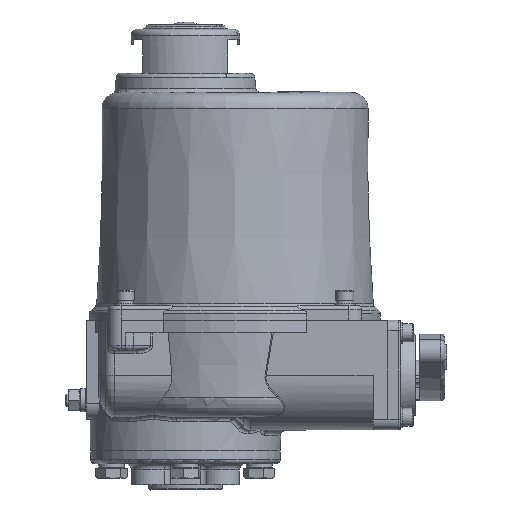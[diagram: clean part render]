
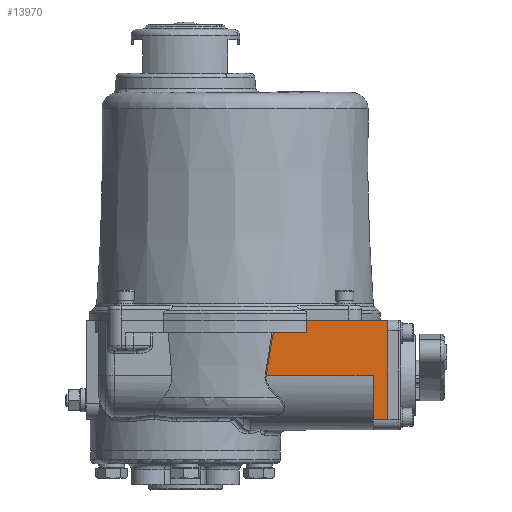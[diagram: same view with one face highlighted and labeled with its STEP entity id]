
A CAD part, left-side view. The second image highlights one B-rep face of the part: STEP entity #13970.
In plain terms, the highlighted planar face has unit normal (-1, 0, 0).
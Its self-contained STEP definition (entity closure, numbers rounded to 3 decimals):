
#13970=ADVANCED_FACE('',(#55809),#55811,.T.);
#55809=FACE_BOUND('',#55810,.T.);
#55810=EDGE_LOOP('',(#71346,#71347,#71348,#71349,#71350,#71351,#71352,#71353,#71354,
#71355));
#55811=PLANE('',#55812);
#55812=AXIS2_PLACEMENT_3D('',#55813,#55814,#55815);
#55813=CARTESIAN_POINT('',(-299.946,-84.392,62.));
#55814=DIRECTION('',(-1.,0.,0.));
#55815=DIRECTION('',(0.,0.,1.));
#71346=ORIENTED_EDGE('',*,*,#80792,.F.);
#71347=ORIENTED_EDGE('',*,*,#80793,.F.);
#71348=ORIENTED_EDGE('',*,*,#80794,.T.);
#71349=ORIENTED_EDGE('',*,*,#80718,.F.);
#71350=ORIENTED_EDGE('',*,*,#80795,.T.);
#71351=ORIENTED_EDGE('',*,*,#78777,.T.);
#71352=ORIENTED_EDGE('',*,*,#80796,.T.);
#71353=ORIENTED_EDGE('',*,*,#80797,.T.);
#71354=ORIENTED_EDGE('',*,*,#80798,.T.);
#71355=ORIENTED_EDGE('',*,*,#80799,.T.);
#78777=EDGE_CURVE('',#87031,#87039,#87041,.T.);
#80718=EDGE_CURVE('',#90176,#90178,#90179,.T.);
#80792=EDGE_CURVE('',#90302,#90303,#90304,.T.);
#80793=EDGE_CURVE('',#90305,#90302,#90306,.T.);
#80794=EDGE_CURVE('',#90305,#90178,#90307,.T.);
#80795=EDGE_CURVE('',#90176,#87031,#90308,.T.);
#80796=EDGE_CURVE('',#87039,#87205,#90309,.T.);
#80797=EDGE_CURVE('',#87205,#90310,#90311,.T.);
#80798=EDGE_CURVE('',#90310,#90312,#90313,.T.);
#80799=EDGE_CURVE('',#90312,#90303,#90314,.T.);
#87031=VERTEX_POINT('',#134506);
#87039=VERTEX_POINT('',#134524);
#87041=LINE('',#134528,#134529);
#87205=VERTEX_POINT('',#136705);
#90176=VERTEX_POINT('',#172780);
#90178=VERTEX_POINT('',#172785);
#90179=LINE('',#172786,#172787);
#90302=VERTEX_POINT('',#173936);
#90303=VERTEX_POINT('',#173937);
#90304=LINE('',#173938,#173939);
#90305=VERTEX_POINT('',#173941);
#90306=LINE('',#173942,#173943);
#90307=B_SPLINE_CURVE_WITH_KNOTS('',3,
(#173945,#173946,#173947,#173948,#173949,#173950,#173951,#173952,#173953,#173954,
#173955,#173956,#173957,#173958,#173959,#173960,#173961,#173962,#173963,#173964,
#173965,#173966,#173967,#173968,#173969,#173970,#173971,#173972,#173973,#173974,
#173975,#173976,#173977,#173978,#173979,#173980,#173981,#173982,#173983,#173984,
#173985,#173986,#173987,#173988,#173989,#173990,#173991,#173992,#173993,#173994,
#173995,#173996,#173997,#173998,#173999,#174000),
.UNSPECIFIED.,.F.,.F.,
(4,2,2,2,2,2,2,2,2,2,2,2,2,2,2,2,2,2,2,2,2,2,2,2,2,2,2,4),
(0.,0.064,0.12,0.167,0.208,0.242,
0.252,0.262,0.274,0.299,0.348,
0.446,0.501,0.511,0.525,0.552,
0.607,0.717,0.734,0.75,0.76,
0.77,0.789,0.828,0.872,0.921,
0.976,1.),
.UNSPECIFIED.);
#90308=LINE('',#174001,#174002);
#90309=LINE('',#174004,#174005);
#90310=VERTEX_POINT('',#174007);
#90311=LINE('',#174008,#174009);
#90312=VERTEX_POINT('',#174011);
#90313=LINE('',#174012,#174013);
#90314=LINE('',#174015,#174016);
#134506=CARTESIAN_POINT('',(-299.946,-77.392,15.));
#134524=CARTESIAN_POINT('',(-299.946,-84.392,15.));
#134528=CARTESIAN_POINT('',(-299.946,-77.392,15.));
#134529=VECTOR('',#134530,1.);
#134530=DIRECTION('',(0.,-1.,0.));
#136705=CARTESIAN_POINT('',(-299.946,-84.392,57.));
#172780=CARTESIAN_POINT('',(-299.946,-77.392,36.));
#172785=CARTESIAN_POINT('',(-299.946,-26.68,36.));
#172786=CARTESIAN_POINT('',(-299.946,-77.392,36.));
#172787=VECTOR('',#172788,1.);
#172788=DIRECTION('',(0.,1.,0.));
#173936=CARTESIAN_POINT('',(-299.946,-45.966,56.));
#173937=CARTESIAN_POINT('',(-299.946,-45.966,62.));
#173938=CARTESIAN_POINT('',(-299.946,-45.966,56.));
#173939=VECTOR('',#173940,1.);
#173940=DIRECTION('',(0.,0.,1.));
#173941=CARTESIAN_POINT('',(-299.946,-30.079,56.));
#173942=CARTESIAN_POINT('',(-299.946,-30.079,56.));
#173943=VECTOR('',#173944,1.);
#173944=DIRECTION('',(0.,-1.,0.));
#173945=CARTESIAN_POINT('',(-299.946,-30.079,56.));
#173946=CARTESIAN_POINT('',(-299.946,-29.992,55.447));
#173947=CARTESIAN_POINT('',(-299.946,-29.904,54.895));
#173948=CARTESIAN_POINT('',(-299.946,-29.757,53.962));
#173949=CARTESIAN_POINT('',(-299.946,-29.692,53.555));
#173950=CARTESIAN_POINT('',(-299.946,-29.582,52.857));
#173951=CARTESIAN_POINT('',(-299.946,-29.534,52.557));
#173952=CARTESIAN_POINT('',(-299.946,-29.452,52.038));
#173953=CARTESIAN_POINT('',(-299.946,-29.416,51.812));
#173954=CARTESIAN_POINT('',(-299.946,-29.353,51.422));
#173955=CARTESIAN_POINT('',(-299.946,-29.329,51.271));
#173956=CARTESIAN_POINT('',(-299.946,-29.293,51.045));
#173957=CARTESIAN_POINT('',(-299.946,-29.286,51.004));
#173958=CARTESIAN_POINT('',(-299.946,-29.266,50.878));
#173959=CARTESIAN_POINT('',(-299.946,-29.252,50.793));
#173960=CARTESIAN_POINT('',(-299.946,-29.226,50.63));
#173961=CARTESIAN_POINT('',(-299.946,-29.212,50.54));
#173962=CARTESIAN_POINT('',(-299.946,-29.169,50.274));
#173963=CARTESIAN_POINT('',(-299.946,-29.14,50.097));
#173964=CARTESIAN_POINT('',(-299.946,-29.055,49.574));
#173965=CARTESIAN_POINT('',(-299.946,-29.,49.233));
#173966=CARTESIAN_POINT('',(-299.946,-28.835,48.23));
#173967=CARTESIAN_POINT('',(-299.946,-28.729,47.589));
#173968=CARTESIAN_POINT('',(-299.946,-28.569,46.63));
#173969=CARTESIAN_POINT('',(-299.946,-28.512,46.296));
#173970=CARTESIAN_POINT('',(-299.946,-28.445,45.904));
#173971=CARTESIAN_POINT('',(-299.946,-28.435,45.845));
#173972=CARTESIAN_POINT('',(-299.946,-28.411,45.703));
#173973=CARTESIAN_POINT('',(-299.946,-28.397,45.62));
#173974=CARTESIAN_POINT('',(-299.946,-28.354,45.369));
#173975=CARTESIAN_POINT('',(-299.946,-28.325,45.2));
#173976=CARTESIAN_POINT('',(-299.946,-28.236,44.686));
#173977=CARTESIAN_POINT('',(-299.946,-28.175,44.334));
#173978=CARTESIAN_POINT('',(-299.946,-27.987,43.252));
#173979=CARTESIAN_POINT('',(-299.946,-27.853,42.495));
#173980=CARTESIAN_POINT('',(-299.946,-27.691,41.587));
#173981=CARTESIAN_POINT('',(-299.946,-27.671,41.471));
#173982=CARTESIAN_POINT('',(-299.946,-27.629,41.237));
#173983=CARTESIAN_POINT('',(-299.946,-27.603,41.092));
#173984=CARTESIAN_POINT('',(-299.946,-27.576,40.944));
#173985=CARTESIAN_POINT('',(-299.946,-27.57,40.908));
#173986=CARTESIAN_POINT('',(-299.946,-27.553,40.815));
#173987=CARTESIAN_POINT('',(-299.946,-27.545,40.768));
#173988=CARTESIAN_POINT('',(-299.946,-27.519,40.627));
#173989=CARTESIAN_POINT('',(-299.946,-27.502,40.53));
#173990=CARTESIAN_POINT('',(-299.946,-27.448,40.231));
#173991=CARTESIAN_POINT('',(-299.946,-27.41,40.019));
#173992=CARTESIAN_POINT('',(-299.946,-27.323,39.539));
#173993=CARTESIAN_POINT('',(-299.946,-27.274,39.268));
#173994=CARTESIAN_POINT('',(-299.946,-27.163,38.656));
#173995=CARTESIAN_POINT('',(-299.946,-27.1,38.311));
#173996=CARTESIAN_POINT('',(-299.946,-26.958,37.531));
#173997=CARTESIAN_POINT('',(-299.946,-26.878,37.09));
#173998=CARTESIAN_POINT('',(-299.946,-26.756,36.42));
#173999=CARTESIAN_POINT('',(-299.946,-26.718,36.21));
#174000=CARTESIAN_POINT('',(-299.946,-26.68,36.));
#174001=CARTESIAN_POINT('',(-299.946,-77.392,36.));
#174002=VECTOR('',#174003,1.);
#174003=DIRECTION('',(0.,0.,-1.));
#174004=CARTESIAN_POINT('',(-299.946,-84.392,15.));
#174005=VECTOR('',#174006,1.);
#174006=DIRECTION('',(0.,0.,1.));
#174007=CARTESIAN_POINT('',(-299.946,-84.392,62.));
#174008=CARTESIAN_POINT('',(-299.946,-84.392,57.));
#174009=VECTOR('',#174010,1.);
#174010=DIRECTION('',(0.,0.,1.));
#174011=CARTESIAN_POINT('',(-299.946,-65.892,62.));
#174012=CARTESIAN_POINT('',(-299.946,-84.392,62.));
#174013=VECTOR('',#174014,1.);
#174014=DIRECTION('',(0.,1.,0.));
#174015=CARTESIAN_POINT('',(-299.946,-65.892,62.));
#174016=VECTOR('',#174017,1.);
#174017=DIRECTION('',(0.,1.,0.));
